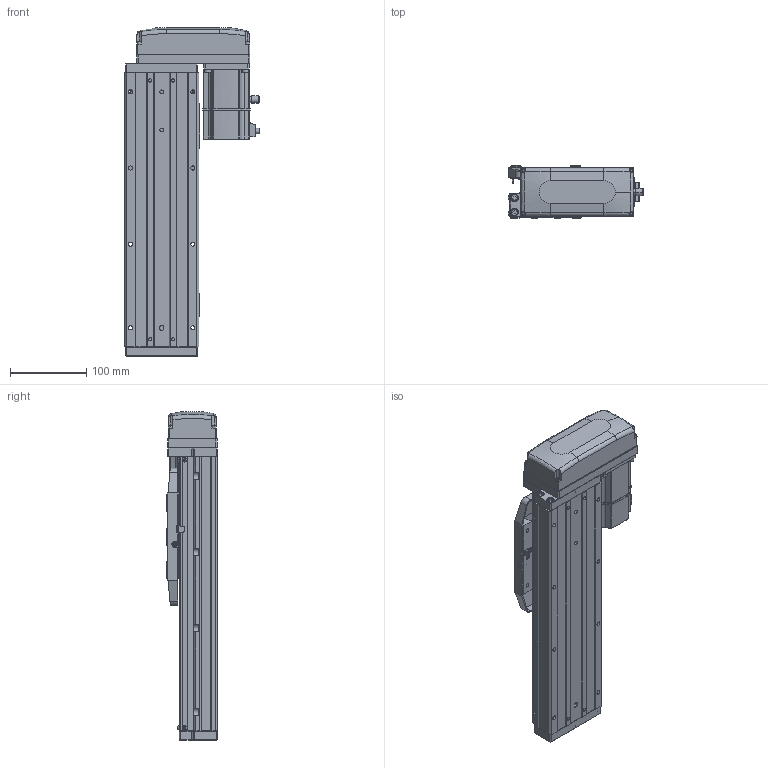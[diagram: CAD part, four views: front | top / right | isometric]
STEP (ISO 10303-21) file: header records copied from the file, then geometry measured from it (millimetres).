
FILE_DESCRIPTION (( 'STEP AP203' ), '1' );
FILE_NAME ('CTHA100-150-BL-M20-C4L.step', '2022-07-06T08:56:23', ( '微软用户' ), ( '微软中国' ), 'SwSTEP 2.0', 'SolidWorks 2020', '' );
FILE_SCHEMA (( 'CONFIG_CONTROL_DESIGN' ));
Length unit declared in the file: millimetre
Products named in the file (19): GBT70.1 M5℅16; CTHA86-015-1_CTHA86-015-2; GB¨uT 70.2-M3¡Á5_M3¡Á6; CTHA60-016; CTHA86-033; EE_SX911P_R; _X2_4E0983F1_X0_200W_1; CTHA100-150-BL-M20-C4L; CTHA60-017; CTHA100-002; CTHA60-021; CTHA100-031; KTHA100-001_360; GBT77-2000 M3×3; CTHA86-030; KTHA100-004; GBT 70.1-M3℅6; GBT 70.3-M3℅6; KTHA100-005
Assembly tree (64 placements, depth 2):
  CTHA100-150-BL-M20-C4L
    KTHA100-001_360
    KTHA100-004
    KTHA100-005
    GB¨uT 70.2-M3¡Á5_M3¡Á6  x10
    EE_SX911P_R  x3
    CTHA60-017  x3
    CTHA60-021  x2
    GBT77-2000 M3×3  x6
    GBT 70.1-M3℅6  x10
    GBT70.1 M5℅16  x14
    CTHA60-016  x2
    _X2_4E0983F1_X0_200W_1
    CTHA100-002
    CTHA100-031
    CTHA86-030  x2
    GBT 70.3-M3℅6  x4
    CTHA86-015-1_CTHA86-015-2
    CTHA86-033
Bounding box: 177.7 x 68 x 431 mm (x, y, z)
Volume: 2249299.8 mm3; surface area: 406971.5 mm2
Topology: 66 solids, 66 shells, 2589 faces, 6191 edges, 3832 vertices
Faces by surface type: plane 1344, cylinder 677, cone 345, torus 124, bspline 75, sphere 24
Entity records: 43408 total; most frequent: CARTESIAN_POINT 8587, DIRECTION 6654, ORIENTED_EDGE 6498, EDGE_CURVE 3249, AXIS2_PLACEMENT_3D 2271, VECTOR 2112, LINE 2112, VERTEX_POINT 2052
